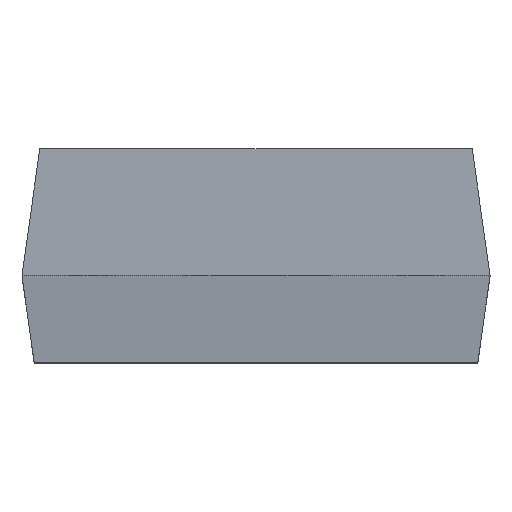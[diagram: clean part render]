
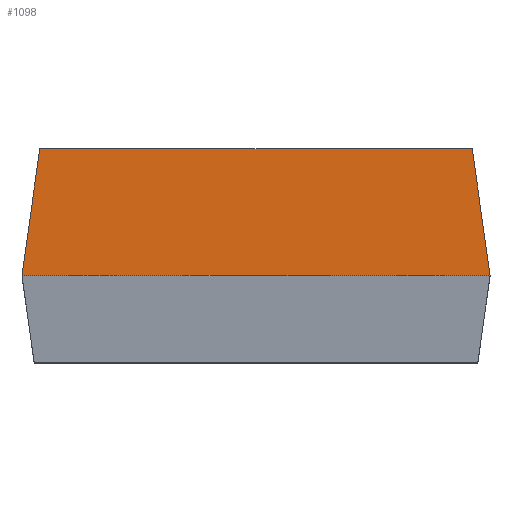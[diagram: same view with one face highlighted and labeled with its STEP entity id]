
A CAD part, top view. The second image highlights one B-rep face of the part: STEP entity #1098.
In plain terms, the highlighted planar face has unit normal (0, 0, 1).
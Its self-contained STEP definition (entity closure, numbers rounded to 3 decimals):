
#28=LINE('',#1502,#141);
#30=LINE('',#1512,#143);
#31=LINE('',#1515,#144);
#32=LINE('',#1516,#145);
#141=VECTOR('',#1246,1000.);
#143=VECTOR('',#1256,1000.);
#144=VECTOR('',#1257,1000.);
#145=VECTOR('',#1258,1000.);
#261=ORIENTED_EDGE('',*,*,#511,.T.);
#262=ORIENTED_EDGE('',*,*,#512,.T.);
#263=ORIENTED_EDGE('',*,*,#506,.F.);
#264=ORIENTED_EDGE('',*,*,#513,.T.);
#506=EDGE_CURVE('',#631,#632,#28,.T.);
#511=EDGE_CURVE('',#636,#637,#30,.T.);
#512=EDGE_CURVE('',#637,#632,#31,.T.);
#513=EDGE_CURVE('',#631,#636,#32,.T.);
#631=VERTEX_POINT('',#1501);
#632=VERTEX_POINT('',#1503);
#636=VERTEX_POINT('',#1513);
#637=VERTEX_POINT('',#1514);
#731=EDGE_LOOP('',(#261,#262,#263,#264));
#802=FACE_BOUND('',#731,.T.);
#868=PLANE('',#1172);
#1098=ADVANCED_FACE('',(#802),#868,.T.);
#1172=AXIS2_PLACEMENT_3D('',#1511,#1254,#1255);
#1246=DIRECTION('',(-1.,0.,0.));
#1254=DIRECTION('',(0.,0.,1.));
#1255=DIRECTION('',(1.,0.,0.));
#1256=DIRECTION('',(-1.,0.,0.));
#1257=DIRECTION('',(-0.139,-0.99,0.));
#1258=DIRECTION('',(-0.139,0.99,0.));
#1501=CARTESIAN_POINT('',(5.,0.,14.585));
#1502=CARTESIAN_POINT('',(5.,0.,14.585));
#1503=CARTESIAN_POINT('',(-5.,0.,14.585));
#1511=CARTESIAN_POINT('',(5.,2.7,14.585));
#1512=CARTESIAN_POINT('',(5.,2.7,14.585));
#1513=CARTESIAN_POINT('',(4.621,2.7,14.585));
#1514=CARTESIAN_POINT('',(-4.621,2.7,14.585));
#1515=CARTESIAN_POINT('',(-4.434,4.026,14.585));
#1516=CARTESIAN_POINT('',(4.628,2.648,14.585));
